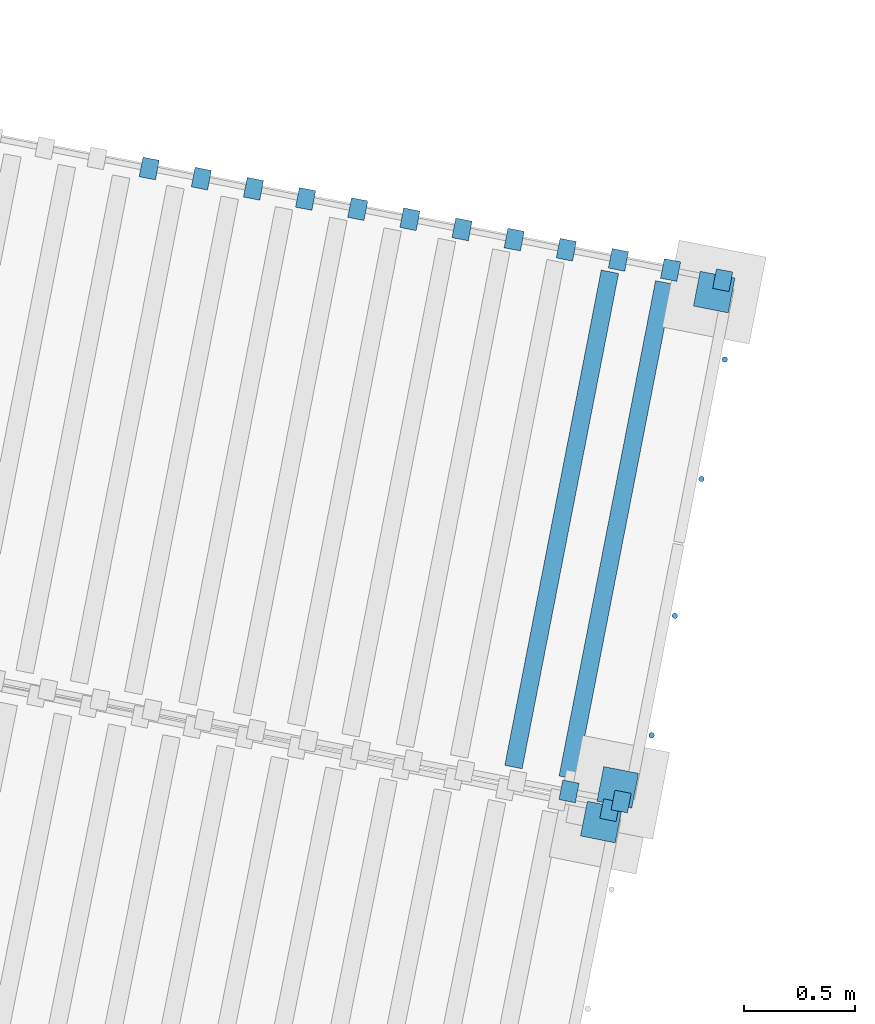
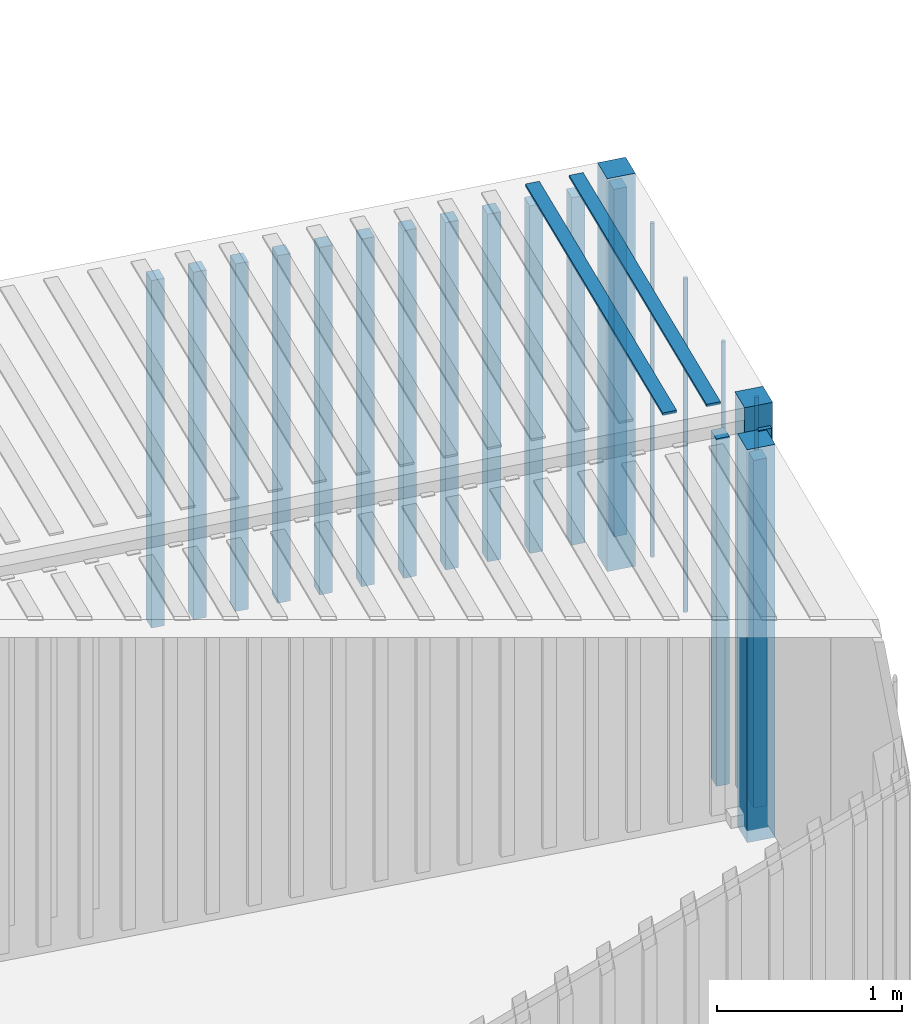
# One storey, part 80 of 128: 24 members, 2 elements without a shape of their own.
"""IFC4 building model written with IfcOpenShell, lengths in metres."""

import ifcopenshell
import ifcopenshell.guid

model = None  # the IFC model being written
_history = None  # IfcOwnerHistory: only IFC2X3 demands one
_inside = {}  # id of a spatial element -> (the spatial element, [elements in it])
_under = {}  # id of a project, library or spatial element -> (it, [spatial elements below it])
_declared = {}  # id of a project -> (the project, [libraries it declares])
_typed = {}  # id of a type object -> (the type object, [elements of that type])
_made_of = {}  # id of a material, layer set ... -> (it, [elements and type objects made of it])


def new_model(schema):
    """Start an empty IFC model of exactly this schema.

    Asked for "IFC4X3", IfcOpenShell would pick the latest addendum, in which some entities
    have other attributes; the version numbers below select the first issue.
    IFC2X3 requires an IfcOwnerHistory on every rooted entity: one is made here for all.
    """
    global model, _history
    if schema == "IFC4X3":
        model = ifcopenshell.file(schema_version=(4, 3, 0, 0))
    else:
        model = ifcopenshell.file(schema=schema)
    _inside.clear()
    _under.clear()
    _declared.clear()
    _typed.clear()
    _made_of.clear()
    _history = None
    if model.schema == "IFC2X3":
        org = make("IfcOrganization", Name="unknown")
        user = make(
            "IfcPersonAndOrganization",
            ThePerson=make("IfcPerson", FamilyName="unknown"),
            TheOrganization=org,
        )
        app = make(
            "IfcApplication",
            ApplicationDeveloper=org,
            Version="unknown",
            ApplicationFullName="unknown",
            ApplicationIdentifier="unknown",
        )
        _history = make(
            "IfcOwnerHistory",
            OwningUser=user,
            OwningApplication=app,
            ChangeAction="ADDED",
            CreationDate=0,
        )
    return model


def make(cls, **values):
    """One entity of the class cls with the attributes given. An attribute that is None is left unset."""
    return model.create_entity(
        cls, **{name: value for name, value in values.items() if value is not None}
    )


def rooted(cls, **values):
    """An entity with a GlobalId (a new one), such as an element, a storey or a relation."""
    return make(cls, GlobalId=ifcopenshell.guid.new(), OwnerHistory=_history, **values)


def si_unit(unit_type, name, prefix=None):
    """IfcSIUnit, for example si_unit("LENGTHUNIT", "METRE", prefix="MILLI")."""
    return make("IfcSIUnit", UnitType=unit_type, Prefix=prefix, Name=name)


def assignment(units):
    """IfcUnitAssignment: the units of a project."""
    return None if units is None else make("IfcUnitAssignment", Units=units)


def point(xyz):
    """IfcCartesianPoint."""
    return None if xyz is None else make("IfcCartesianPoint", Coordinates=xyz)


def direction(xyz):
    """IfcDirection."""
    return None if xyz is None else make("IfcDirection", DirectionRatios=xyz)


def frame(location, z_axis=None, x_axis=None):
    """IfcAxis2Placement3D, a coordinate frame: its origin and axes. An axis left out is left unset."""
    return make(
        "IfcAxis2Placement3D",
        Location=point(location),
        Axis=direction(z_axis),
        RefDirection=direction(x_axis),
    )


def origin_with_axes():
    """The frame at (0, 0, 0) with the z axis (0, 0, 1) and the x axis (1, 0, 0) written out."""
    return frame((0.0, 0.0, 0.0), z_axis=(0.0, 0.0, 1.0), x_axis=(1.0, 0.0, 0.0))


def place(relative_to, where):
    """IfcLocalPlacement: puts the frame where relative to a parent placement (None: the world)."""
    return make(
        "IfcLocalPlacement", PlacementRelTo=relative_to, RelativePlacement=where
    )


def context(
    kind, dimensions, precision=None, world=None, true_north=None, identifier=None
):
    """IfcGeometricRepresentationContext, for example the 3D "Model" context."""
    return make(
        "IfcGeometricRepresentationContext",
        ContextIdentifier=identifier,
        ContextType=kind,
        CoordinateSpaceDimension=dimensions,
        Precision=precision,
        WorldCoordinateSystem=world,
        TrueNorth=true_north,
    )


def subcontext(parent, identifier, kind, view, scale=None):
    """IfcGeometricRepresentationSubContext, for example "Body" below "Model"."""
    return make(
        "IfcGeometricRepresentationSubContext",
        ContextIdentifier=identifier,
        ContextType=kind,
        ParentContext=parent,
        TargetScale=scale,
        TargetView=view,
    )


def project(units=None, contexts=None):
    """IfcProject with its units and contexts."""
    return rooted(
        "IfcProject",
        Name="project",
        RepresentationContexts=contexts,
        UnitsInContext=assignment(units),
    )


def spatial(cls, under=None, at=None, **own):
    """A site, building, storey or space (cls), placed at a placement, below another one or the project."""
    s = rooted(cls, ObjectPlacement=at, **own)
    if under is not None:
        _under.setdefault(under.id(), (under, []))[1].append(s)
    return s


def polyline(points):
    """IfcPolyline through the points."""
    return make("IfcPolyline", Points=[point(p) for p in points])


def profile(cls, at=None, kind="AREA", **sizes):
    """A parametric profile (cls). Its sizes go by their IFC names, for example OverallWidth=200.0."""
    return make(cls, ProfileType=kind, Position=at, **sizes)


def circle(**sizes):
    """IfcCircleProfileDef."""
    return profile("IfcCircleProfileDef", **sizes)


def outline(outer, holes=None, kind="AREA"):
    """IfcArbitraryClosedProfileDef: a profile drawn as a closed curve; with holes, ...WithVoids."""
    if holes is None:
        return make("IfcArbitraryClosedProfileDef", ProfileType=kind, OuterCurve=outer)
    return make(
        "IfcArbitraryProfileDefWithVoids",
        ProfileType=kind,
        OuterCurve=outer,
        InnerCurves=holes,
    )


def extrude(swept, where, along, depth):
    """IfcExtrudedAreaSolid: the profile swept, set in the frame where, extruded along a direction by depth."""
    return make(
        "IfcExtrudedAreaSolid",
        SweptArea=swept,
        Position=where,
        ExtrudedDirection=direction(along),
        Depth=depth,
    )


def shape(context_of_items, identifier, shape_type, items):
    """IfcShapeRepresentation: the items that make up one representation, for example the "Body"."""
    return make(
        "IfcShapeRepresentation",
        ContextOfItems=context_of_items,
        RepresentationIdentifier=identifier,
        RepresentationType=shape_type,
        Items=items,
    )


def material(Name=None, Category=None):
    """IfcMaterial."""
    return make("IfcMaterial", Name=Name, Category=Category)


def material_profile(
    of_material, cross_section, Name=None, Category=None, Priority=None
):
    """IfcMaterialProfile: a cross section and its material."""
    return make(
        "IfcMaterialProfile",
        Name=Name,
        Material=of_material,
        Profile=cross_section,
        Priority=Priority,
        Category=Category,
    )


def profile_set(profiles, Name=None, composite=None):
    """IfcMaterialProfileSet."""
    return make(
        "IfcMaterialProfileSet",
        Name=Name,
        MaterialProfiles=profiles,
        CompositeProfile=composite,
    )


def profile_usage(for_profile_set, cardinal=None, extent=None):
    """IfcMaterialProfileSetUsage: how a profile set lies along its element."""
    return make(
        "IfcMaterialProfileSetUsage",
        ForProfileSet=for_profile_set,
        CardinalPoint=cardinal,
        ReferenceExtent=extent,
    )


def made_of(thing, what):
    """Note that an element or type object is made of a material, layer set ...; save() writes the relation."""
    if what is not None:
        _made_of.setdefault(what.id(), (what, []))[1].append(thing)
    return thing


def type_object(cls, material=None, **own):
    """A type object (cls), such as IfcWallType, which elements share."""
    return made_of(rooted(cls, **own), material)


def element(
    cls,
    number,
    at=None,
    inside=None,
    cuts=None,
    type_object=None,
    material=None,
    context=None,
    identifier="Body",
    shape_type=None,
    held_by="IfcProductDefinitionShape",
    body=None,
    shapes=None,
    **own,
):
    """One element of the class cls, such as IfcWall. Its Tag is "e" and its number.

    at: its placement. inside: the storey or other place that contains it. cuts: it is an
    opening in that element (IfcRelVoidsElement). A single representation is given by context,
    identifier, shape_type and body (its items); several are given by shapes. held_by: the class
    of the entity that holds the representations. save() writes the other relations.
    """
    e = rooted(cls, Tag="e%d" % number, ObjectPlacement=at, **own)
    if body is not None:
        shapes = [shape(context, identifier, shape_type, body)]
    if shapes is not None:
        e.Representation = make(held_by, Representations=shapes)
    if inside is not None:
        _inside.setdefault(inside.id(), (inside, []))[1].append(e)
    if cuts is not None:
        rooted(
            "IfcRelVoidsElement", RelatingBuildingElement=cuts, RelatedOpeningElement=e
        )
    if type_object is not None:
        _typed.setdefault(type_object.id(), (type_object, []))[1].append(e)
    return made_of(e, material)


def aggregate(whole, parts):
    """IfcRelAggregates: a whole, such as a stair, and the parts it consists of."""
    return rooted("IfcRelAggregates", RelatingObject=whole, RelatedObjects=parts)


def save(model, path):
    """Write the relations noted so far, then the file.

    IfcRelAggregates (storeys below a building ...), IfcRelContainedInSpatialStructure (elements
    in a storey), IfcRelDefinesByType, IfcRelAssociatesMaterial and IfcRelDeclares: one each for
    every whole, place, type object, material and project.
    """
    for whole, parts in _under.values():
        aggregate(whole, parts)
    for where, things in _inside.values():
        rooted(
            "IfcRelContainedInSpatialStructure",
            RelatedElements=things,
            RelatingStructure=where,
        )
    for kind, things in _typed.values():
        rooted("IfcRelDefinesByType", RelatedObjects=things, RelatingType=kind)
    for what, things in _made_of.values():
        rooted("IfcRelAssociatesMaterial", RelatedObjects=things, RelatingMaterial=what)
    for by, libraries in _declared.values():
        rooted("IfcRelDeclares", RelatingContext=by, RelatedDefinitions=libraries)
    model.write(path)


model = new_model("IFC4")

# Units and contexts
model_context = context("Model", 3, precision=1e-05, world=origin_with_axes(), true_north=direction((0.0, 1.0)))
body_context = subcontext(model_context, "Body", "Model", "MODEL_VIEW")
ifc_project = project(units=[si_unit("VOLUMEUNIT", "CUBIC_METRE"), si_unit("LENGTHUNIT", "METRE"), si_unit("AREAUNIT", "SQUARE_METRE")], contexts=[model_context])

# Site, building, storey
site_placement = place(None, origin_with_axes())
site = spatial("IfcSite", under=ifc_project, at=site_placement, Name="Lares · Rua das Mercês · artigo 4771")
building_placement = place(site_placement, frame((15.0, 9.7, 13.9), z_axis=(0.0, 0.0, 1.0), x_axis=(0.989015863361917, -0.147809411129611, 0.0)))
building = spatial("IfcBuilding", under=site, at=building_placement, Name="Casa Sobreposta")
storey_placement = place(building_placement, origin_with_axes())
storey = spatial("IfcBuildingStorey", under=building, at=storey_placement, Name="00 · Habitação e estacionamento", Elevation=13.9)

# Assembly, members
assembly_1_placement = place(storey_placement, frame((-14.4335953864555, 9.04888612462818, 0.0), z_axis=(0.0, 0.0, 1.0), x_axis=(0.999032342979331, -0.0439815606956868, 0.0)))
assembly_1 = element("IfcElementAssembly", 1, at=assembly_1_placement, inside=storey, Name="Contentor existente 1 · 6 m", ObjectType="EXISTING_SHIPPING_CONTAINER", PredefinedType="USERDEFINED")
ifc_material_1 = material(Name="Aço galvanizado / Stahl verzinkt", Category="steel")
ifc_material_profile = material_profile(ifc_material_1, circle(Radius=0.0125))
ifc_profile_set = profile_set([ifc_material_profile], Name="D0.025")
ifc_profile_usage_1 = profile_usage(ifc_profile_set)
member_type = type_object("IfcMemberType", Name="D0.025 / galvanized", PredefinedType="NOTDEFINED", material=ifc_profile_set)
member_1_placement = place(assembly_1_placement, frame((6.025, 0.34, -0.0631418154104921), z_axis=(0.0, 0.0, 1.0), x_axis=(1.0, 0.0, 0.0)))
member_1 = element("IfcMember", 2, at=member_1_placement, type_object=member_type, material=ifc_profile_usage_1, Name="Contentor · varão de fecho", context=body_context, shape_type="SweptSolid", body=[
    extrude(circle(Radius=0.0125), origin_with_axes(), (0.0, 0.0, 1.0), 2.2),
])
ifc_profile_usage_2 = profile_usage(ifc_profile_set)
member_2_placement = place(assembly_1_placement, frame((6.025, 0.89, -0.0631418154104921), z_axis=(0.0, 0.0, 1.0), x_axis=(1.0, 0.0, 0.0)))
member_2 = element("IfcMember", 3, at=member_2_placement, type_object=member_type, material=ifc_profile_usage_2, Name="Contentor · varão de fecho", context=body_context, shape_type="SweptSolid", body=[
    extrude(circle(Radius=0.0125), origin_with_axes(), (0.0, 0.0, 1.0), 2.2),
])
ifc_profile_usage_3 = profile_usage(ifc_profile_set)
member_3_placement = place(assembly_1_placement, frame((6.025, 1.52, -0.0631418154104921), z_axis=(0.0, 0.0, 1.0), x_axis=(1.0, 0.0, 0.0)))
member_3 = element("IfcMember", 4, at=member_3_placement, type_object=member_type, material=ifc_profile_usage_3, Name="Contentor · varão de fecho", context=body_context, shape_type="SweptSolid", body=[
    extrude(circle(Radius=0.0125), origin_with_axes(), (0.0, 0.0, 1.0), 2.2),
])
ifc_profile_usage_4 = profile_usage(ifc_profile_set)
member_4_placement = place(assembly_1_placement, frame((6.025, 2.07, -0.0631418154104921), z_axis=(0.0, 0.0, 1.0), x_axis=(1.0, 0.0, 0.0)))
member_4 = element("IfcMember", 5, at=member_4_placement, type_object=member_type, material=ifc_profile_usage_4, Name="Contentor · varão de fecho", context=body_context, shape_type="SweptSolid", body=[
    extrude(circle(Radius=0.0125), origin_with_axes(), (0.0, 0.0, 1.0), 2.2),
])
ifc_material_2 = material(Name="Contentor · pintura 1", Category="steel")
member_5_placement = place(assembly_1_placement, frame((0.0, 0.0, -0.263141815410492), z_axis=(0.0, 0.0, 1.0), x_axis=(1.0, 0.0, 0.0)))
member_5 = element("IfcMember", 6, at=member_5_placement, material=ifc_material_2, Name="Contentor · canto", context=body_context, shape_type="SweptSolid", body=[
    extrude(outline(polyline([(6.0, 0.0), (6.0, 0.16), (5.84, 0.16), (5.84, 0.0), (6.0, 0.0)])), origin_with_axes(), (0.0, 0.0, 1.0), 2.59),
])
member_6_placement = place(assembly_1_placement, frame((0.0, 0.0, -0.263141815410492), z_axis=(0.0, 0.0, 1.0), x_axis=(1.0, 0.0, 0.0)))
member_6 = element("IfcMember", 7, at=member_6_placement, material=ifc_material_2, Name="Contentor · canto", context=body_context, shape_type="SweptSolid", body=[
    extrude(outline(polyline([(6.0, 2.28), (6.0, 2.44), (5.84, 2.44), (5.84, 2.28), (6.0, 2.28)])), origin_with_axes(), (0.0, 0.0, 1.0), 2.59),
])
member_7_placement = place(assembly_1_placement, frame((0.0, 0.0, -0.113141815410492), z_axis=(0.0, 0.0, 1.0), x_axis=(1.0, 0.0, 0.0)))
member_7 = element("IfcMember", 8, at=member_7_placement, material=ifc_material_2, Name="Contentor · nervura lateral", context=body_context, shape_type="SweptSolid", body=[
    extrude(outline(polyline([(5.745, -0.025), (5.745, 0.065), (5.67, 0.065), (5.67, -0.025), (5.745, -0.025)])), origin_with_axes(), (0.0, 0.0, 1.0), 2.29),
])
member_8_placement = place(assembly_1_placement, frame((0.0, 0.0, -0.113141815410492), z_axis=(0.0, 0.0, 1.0), x_axis=(1.0, 0.0, 0.0)))
member_8 = element("IfcMember", 9, at=member_8_placement, material=ifc_material_2, Name="Contentor · nervura lateral", context=body_context, shape_type="SweptSolid", body=[
    extrude(outline(polyline([(5.985, -0.025), (5.985, 0.065), (5.91, 0.065), (5.91, -0.025), (5.985, -0.025)])), origin_with_axes(), (0.0, 0.0, 1.0), 2.29),
])
member_9_placement = place(assembly_1_placement, frame((0.0, 0.0, -0.113141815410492), z_axis=(0.0, 0.0, 1.0), x_axis=(1.0, 0.0, 0.0)))
member_9 = element("IfcMember", 10, at=member_9_placement, material=ifc_material_2, Name="Contentor · nervura lateral", context=body_context, shape_type="SweptSolid", body=[
    extrude(outline(polyline([(3.345, 2.375), (3.345, 2.465), (3.27, 2.465), (3.27, 2.375), (3.345, 2.375)])), origin_with_axes(), (0.0, 0.0, 1.0), 2.29),
])
member_10_placement = place(assembly_1_placement, frame((0.0, 0.0, -0.113141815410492), z_axis=(0.0, 0.0, 1.0), x_axis=(1.0, 0.0, 0.0)))
member_10 = element("IfcMember", 11, at=member_10_placement, material=ifc_material_2, Name="Contentor · nervura lateral", context=body_context, shape_type="SweptSolid", body=[
    extrude(outline(polyline([(3.585, 2.375), (3.585, 2.465), (3.51, 2.465), (3.51, 2.375), (3.585, 2.375)])), origin_with_axes(), (0.0, 0.0, 1.0), 2.29),
])
member_11_placement = place(assembly_1_placement, frame((0.0, 0.0, -0.113141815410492), z_axis=(0.0, 0.0, 1.0), x_axis=(1.0, 0.0, 0.0)))
member_11 = element("IfcMember", 12, at=member_11_placement, material=ifc_material_2, Name="Contentor · nervura lateral", context=body_context, shape_type="SweptSolid", body=[
    extrude(outline(polyline([(3.825, 2.375), (3.825, 2.465), (3.75, 2.465), (3.75, 2.375), (3.825, 2.375)])), origin_with_axes(), (0.0, 0.0, 1.0), 2.29),
])
member_12_placement = place(assembly_1_placement, frame((0.0, 0.0, -0.113141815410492), z_axis=(0.0, 0.0, 1.0), x_axis=(1.0, 0.0, 0.0)))
member_12 = element("IfcMember", 13, at=member_12_placement, material=ifc_material_2, Name="Contentor · nervura lateral", context=body_context, shape_type="SweptSolid", body=[
    extrude(outline(polyline([(4.065, 2.375), (4.065, 2.465), (3.99, 2.465), (3.99, 2.375), (4.065, 2.375)])), origin_with_axes(), (0.0, 0.0, 1.0), 2.29),
])
member_13_placement = place(assembly_1_placement, frame((0.0, 0.0, -0.113141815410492), z_axis=(0.0, 0.0, 1.0), x_axis=(1.0, 0.0, 0.0)))
member_13 = element("IfcMember", 14, at=member_13_placement, material=ifc_material_2, Name="Contentor · nervura lateral", context=body_context, shape_type="SweptSolid", body=[
    extrude(outline(polyline([(4.305, 2.375), (4.305, 2.465), (4.23, 2.465), (4.23, 2.375), (4.305, 2.375)])), origin_with_axes(), (0.0, 0.0, 1.0), 2.29),
])
member_14_placement = place(assembly_1_placement, frame((0.0, 0.0, -0.113141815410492), z_axis=(0.0, 0.0, 1.0), x_axis=(1.0, 0.0, 0.0)))
member_14 = element("IfcMember", 15, at=member_14_placement, material=ifc_material_2, Name="Contentor · nervura lateral", context=body_context, shape_type="SweptSolid", body=[
    extrude(outline(polyline([(4.545, 2.375), (4.545, 2.465), (4.47, 2.465), (4.47, 2.375), (4.545, 2.375)])), origin_with_axes(), (0.0, 0.0, 1.0), 2.29),
])
member_15_placement = place(assembly_1_placement, frame((0.0, 0.0, -0.113141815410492), z_axis=(0.0, 0.0, 1.0), x_axis=(1.0, 0.0, 0.0)))
member_15 = element("IfcMember", 16, at=member_15_placement, material=ifc_material_2, Name="Contentor · nervura lateral", context=body_context, shape_type="SweptSolid", body=[
    extrude(outline(polyline([(4.785, 2.375), (4.785, 2.465), (4.71, 2.465), (4.71, 2.375), (4.785, 2.375)])), origin_with_axes(), (0.0, 0.0, 1.0), 2.29),
])
member_16_placement = place(assembly_1_placement, frame((0.0, 0.0, -0.113141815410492), z_axis=(0.0, 0.0, 1.0), x_axis=(1.0, 0.0, 0.0)))
member_16 = element("IfcMember", 17, at=member_16_placement, material=ifc_material_2, Name="Contentor · nervura lateral", context=body_context, shape_type="SweptSolid", body=[
    extrude(outline(polyline([(5.025, 2.375), (5.025, 2.465), (4.95, 2.465), (4.95, 2.375), (5.025, 2.375)])), origin_with_axes(), (0.0, 0.0, 1.0), 2.29),
])
member_17_placement = place(assembly_1_placement, frame((0.0, 0.0, -0.113141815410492), z_axis=(0.0, 0.0, 1.0), x_axis=(1.0, 0.0, 0.0)))
member_17 = element("IfcMember", 18, at=member_17_placement, material=ifc_material_2, Name="Contentor · nervura lateral", context=body_context, shape_type="SweptSolid", body=[
    extrude(outline(polyline([(5.265, 2.375), (5.265, 2.465), (5.19, 2.465), (5.19, 2.375), (5.265, 2.375)])), origin_with_axes(), (0.0, 0.0, 1.0), 2.29),
])
member_18_placement = place(assembly_1_placement, frame((0.0, 0.0, -0.113141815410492), z_axis=(0.0, 0.0, 1.0), x_axis=(1.0, 0.0, 0.0)))
member_18 = element("IfcMember", 19, at=member_18_placement, material=ifc_material_2, Name="Contentor · nervura lateral", context=body_context, shape_type="SweptSolid", body=[
    extrude(outline(polyline([(5.505, 2.375), (5.505, 2.465), (5.43, 2.465), (5.43, 2.375), (5.505, 2.375)])), origin_with_axes(), (0.0, 0.0, 1.0), 2.29),
])
member_19_placement = place(assembly_1_placement, frame((0.0, 0.0, -0.113141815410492), z_axis=(0.0, 0.0, 1.0), x_axis=(1.0, 0.0, 0.0)))
member_19 = element("IfcMember", 20, at=member_19_placement, material=ifc_material_2, Name="Contentor · nervura lateral", context=body_context, shape_type="SweptSolid", body=[
    extrude(outline(polyline([(5.745, 2.375), (5.745, 2.465), (5.67, 2.465), (5.67, 2.375), (5.745, 2.375)])), origin_with_axes(), (0.0, 0.0, 1.0), 2.29),
])
member_20_placement = place(assembly_1_placement, frame((0.0, 0.0, -0.113141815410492), z_axis=(0.0, 0.0, 1.0), x_axis=(1.0, 0.0, 0.0)))
member_20 = element("IfcMember", 21, at=member_20_placement, material=ifc_material_2, Name="Contentor · nervura lateral", context=body_context, shape_type="SweptSolid", body=[
    extrude(outline(polyline([(5.985, 2.375), (5.985, 2.465), (5.91, 2.465), (5.91, 2.375), (5.985, 2.375)])), origin_with_axes(), (0.0, 0.0, 1.0), 2.29),
])
member_21_placement = place(assembly_1_placement, frame((0.0, 0.0, 2.32185818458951), z_axis=(0.0, 0.0, 1.0), x_axis=(1.0, 0.0, 0.0)))
member_21 = element("IfcMember", 22, at=member_21_placement, material=ifc_material_2, Name="Contentor · nervura cobertura", context=body_context, shape_type="SweptSolid", body=[
    extrude(outline(polyline([(5.48, 0.08), (5.48, 2.36), (5.4, 2.36), (5.4, 0.08), (5.48, 0.08)])), origin_with_axes(), (0.0, 0.0, 1.0), 0.018),
])
member_22_placement = place(assembly_1_placement, frame((0.0, 0.0, 2.32185818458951), z_axis=(0.0, 0.0, 1.0), x_axis=(1.0, 0.0, 0.0)))
member_22 = element("IfcMember", 23, at=member_22_placement, material=ifc_material_2, Name="Contentor · nervura cobertura", context=body_context, shape_type="SweptSolid", body=[
    extrude(outline(polyline([(5.73, 0.08), (5.73, 2.36), (5.65, 2.36), (5.65, 0.08), (5.73, 0.08)])), origin_with_axes(), (0.0, 0.0, 1.0), 0.018),
])
aggregate(assembly_1, [member_5, member_6, member_7, member_8, member_9, member_10, member_11, member_12, member_13, member_14, member_15, member_16, member_17, member_18, member_19, member_20, member_1, member_2, member_3, member_4, member_21, member_22])

assembly_2_placement = place(storey_placement, frame((-14.5932944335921, 6.63122214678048, 0.0), z_axis=(0.0, 0.0, 1.0), x_axis=(0.998832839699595, -0.0483007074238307, 0.0)))
assembly_2 = element("IfcElementAssembly", 24, at=assembly_2_placement, inside=storey, Name="Contentor existente 2 · 6 m", ObjectType="EXISTING_SHIPPING_CONTAINER", PredefinedType="USERDEFINED")
ifc_material_3 = material(Name="Contentor · pintura 2", Category="steel")
member_23_placement = place(assembly_2_placement, frame((0.0, 0.0, -0.418751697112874), z_axis=(0.0, 0.0, 1.0), x_axis=(1.0, 0.0, 0.0)))
member_23 = element("IfcMember", 25, at=member_23_placement, material=ifc_material_3, Name="Contentor · canto", context=body_context, shape_type="SweptSolid", body=[
    extrude(outline(polyline([(6.0, 2.28), (6.0, 2.44), (5.84, 2.44), (5.84, 2.28), (6.0, 2.28)])), origin_with_axes(), (0.0, 0.0, 1.0), 2.59),
])
member_24_placement = place(assembly_2_placement, frame((0.0, 0.0, -0.268751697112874), z_axis=(0.0, 0.0, 1.0), x_axis=(1.0, 0.0, 0.0)))
member_24 = element("IfcMember", 26, at=member_24_placement, material=ifc_material_3, Name="Contentor · nervura lateral", context=body_context, shape_type="SweptSolid", body=[
    extrude(outline(polyline([(5.985, 2.375), (5.985, 2.465), (5.91, 2.465), (5.91, 2.375), (5.985, 2.375)])), origin_with_axes(), (0.0, 0.0, 1.0), 2.29),
])
aggregate(assembly_2, [member_23, member_24])

save(model, "model.ifc")
